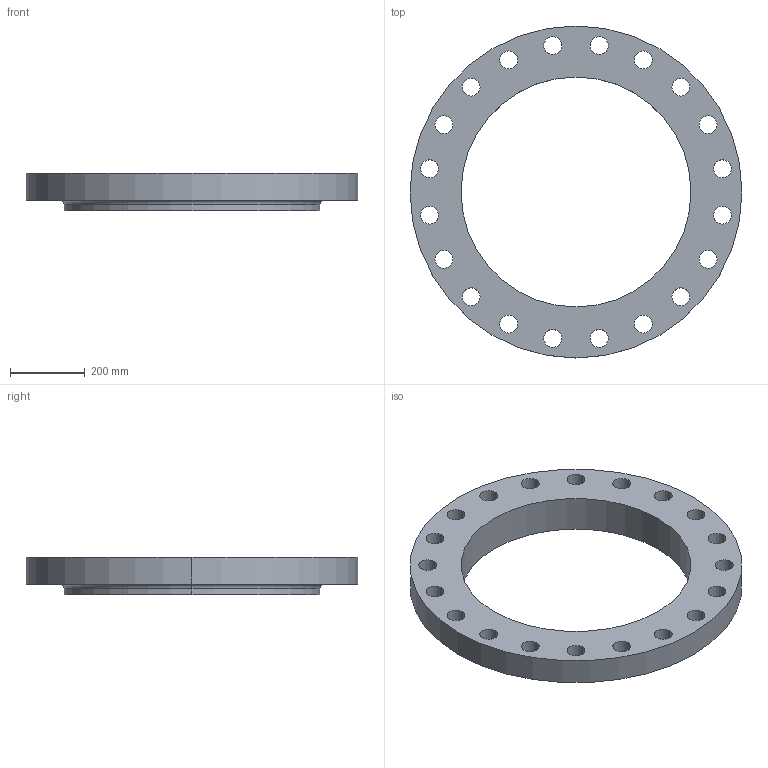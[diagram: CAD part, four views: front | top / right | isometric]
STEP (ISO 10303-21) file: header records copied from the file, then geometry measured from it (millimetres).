
FILE_DESCRIPTION (( 'STEP AP214' ), '1' );
FILE_NAME ('PN40 DN600 Type 12 - Type A Face.STEP', '2018-12-28T23:05:37', ( '' ), ( '' ), 'SwSTEP 2.0', 'SolidWorks 2019', '' );
FILE_SCHEMA (( 'AUTOMOTIVE_DESIGN' ));
Length unit declared in the file: millimetre
Products named in the file (1): PN40 DN600 Type 12 - Type A Face
Bounding box: 890 x 890 x 100 mm (x, y, z)
Volume: 22751698.8 mm3; surface area: 1236276.6 mm2
Topology: 1 solids, 1 shells, 51 faces, 142 edges, 94 vertices
Faces by surface type: cylinder 46, plane 3, torus 2
Entity records: 1814 total; most frequent: DIRECTION 342, CARTESIAN_POINT 288, ORIENTED_EDGE 284, AXIS2_PLACEMENT_3D 148, EDGE_CURVE 142, CIRCLE 96, EDGE_LOOP 94, VERTEX_POINT 94
